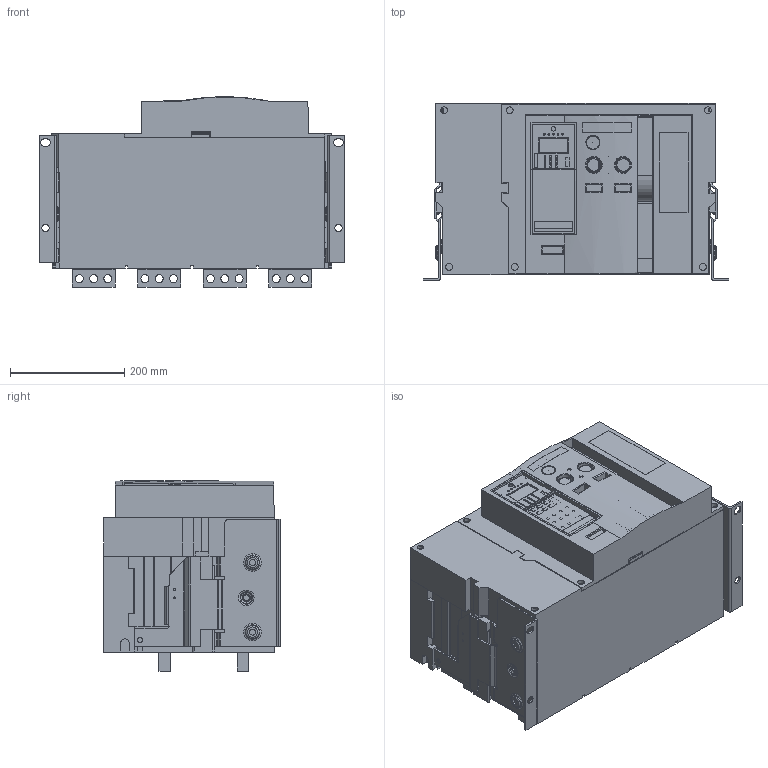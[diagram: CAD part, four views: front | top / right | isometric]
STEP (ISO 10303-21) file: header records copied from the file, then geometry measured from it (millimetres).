
FILE_DESCRIPTION (( 'STEP AP214' ), '1' );
FILE_NAME ('OptiMat A-S4-BH-2500-3200-4P-F-H.STEP', '2023-08-04T06:47:56', ( '' ), ( '' ), 'SwSTEP 2.0', 'SolidWorks 2018', '' );
FILE_SCHEMA (( 'AUTOMOTIVE_DESIGN' ));
Length unit declared in the file: millimetre
Products named in the file (1): OptiMat A-S4-BH-2500-3200-4P-F-H
Bounding box: 536 x 310.5 x 333.81 mm (x, y, z)
Volume: 36014463.3 mm3; surface area: 1734443.5 mm2
Topology: 15 solids, 32 shells, 3316 faces, 9114 edges, 6004 vertices
Faces by surface type: plane 2095, cylinder 945, cone 141, torus 101, bspline 34
Entity records: 148656 total; most frequent: CARTESIAN_POINT 26607, ORIENTED_EDGE 18208, DIRECTION 17593, EDGE_CURVE 9104, VECTOR 6319, LINE 6319, VERTEX_POINT 6004, AXIS2_PLACEMENT_3D 5637
